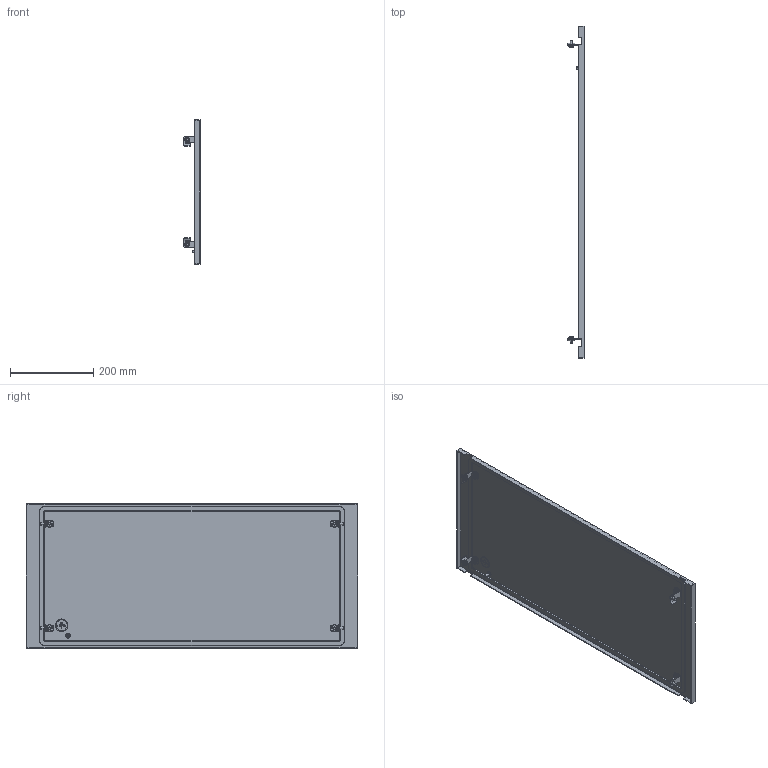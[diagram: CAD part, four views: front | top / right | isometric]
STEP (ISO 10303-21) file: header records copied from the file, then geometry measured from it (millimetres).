
FILE_DESCRIPTION (( 'STEP AP214' ), '1' );
FILE_NAME ('FO-00-PWSB-035-080 Ôàëüø-ïàíåëü âíåøíÿÿ ãëóõàÿ 350õ800 ìì.STEP', '2025-08-25T07:53:05', ( '' ), ( '' ), 'SwSTEP 2.0', 'SolidWorks 2023', '' );
FILE_SCHEMA (( 'AUTOMOTIVE_DESIGN' ));
Length unit declared in the file: millimetre
Products named in the file (1): FO-00-PWSB-035-080 Фальш-панель внешняя глухая 350х800 мм
Bounding box: 38.5 x 795 x 346 mm (x, y, z)
Volume: 681768 mm3; surface area: 625914.3 mm2
Topology: 1 solids, 10 shells, 846 faces, 2093 edges, 1287 vertices
Faces by surface type: plane 530, cylinder 202, cone 90, torus 24
Entity records: 25296 total; most frequent: CARTESIAN_POINT 4873, DIRECTION 4361, ORIENTED_EDGE 4182, EDGE_CURVE 2091, AXIS2_PLACEMENT_3D 1487, LINE 1387, VECTOR 1387, VERTEX_POINT 1287
